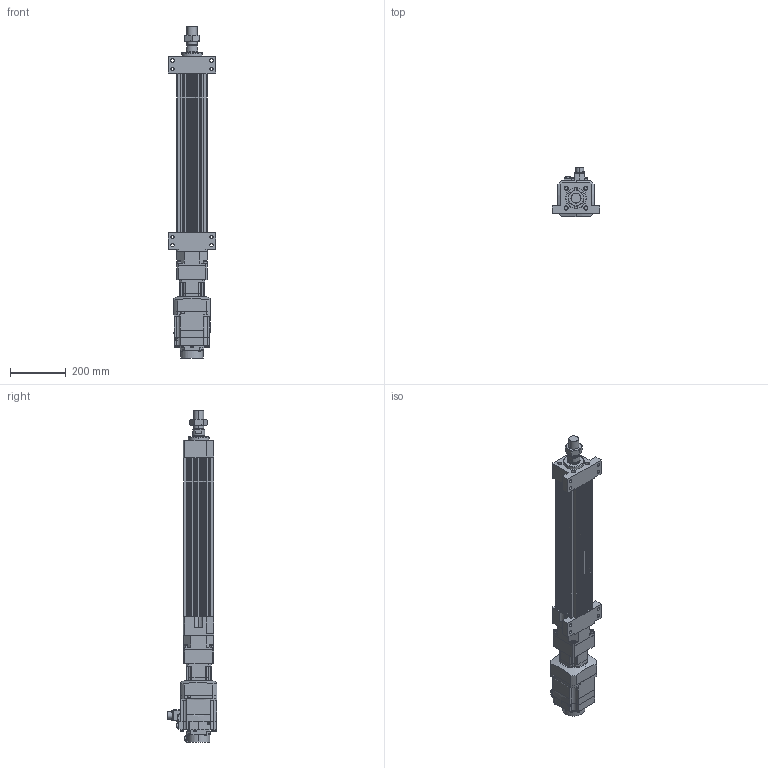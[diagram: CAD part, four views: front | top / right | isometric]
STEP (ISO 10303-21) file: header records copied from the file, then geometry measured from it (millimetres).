
FILE_DESCRIPTION (( 'STEP AP203' ), '1' );
FILE_NAME ('HES110NS(HS)-S400-W010G00-M-FFB.STEP', '2026-06-10T05:59:52', ( 'tms' ), ( '' ), 'SwSTEP 2.0', 'SolidWorks 2013', '' );
FILE_SCHEMA (( 'CONFIG_CONTROL_DESIGN' ));
Length unit declared in the file: millimetre
Products named in the file (8): M36X1.5P; HES110-FFB-400; HES110NS(HS)-S400-W010G00-M-FFB; HES110-M-ROD-400; HG-SR102B; AB0902; AB0901; HES110-S-G90
Assembly tree (7 placements, depth 2):
  HES110NS(HS)-S400-W010G00-M-FFB
    HES110-FFB-400
    HES110-M-ROD-400
    M36X1.5P
    HES110-S-G90
    AB0901
    AB0902
    HG-SR102B
Bounding box: 170 x 177.49 x 1193 mm (x, y, z)
Volume: 8076807.5 mm3; surface area: 1054544.1 mm2
Topology: 5 solids, 12 shells, 1194 faces, 3036 edges, 1981 vertices
Faces by surface type: plane 560, cylinder 552, cone 68, bspline 10, torus 4
Entity records: 38266 total; most frequent: CARTESIAN_POINT 7539, DIRECTION 6557, ORIENTED_EDGE 6044, EDGE_CURVE 3032, AXIS2_PLACEMENT_3D 2423, VERTEX_POINT 1981, VECTOR 1711, LINE 1711
